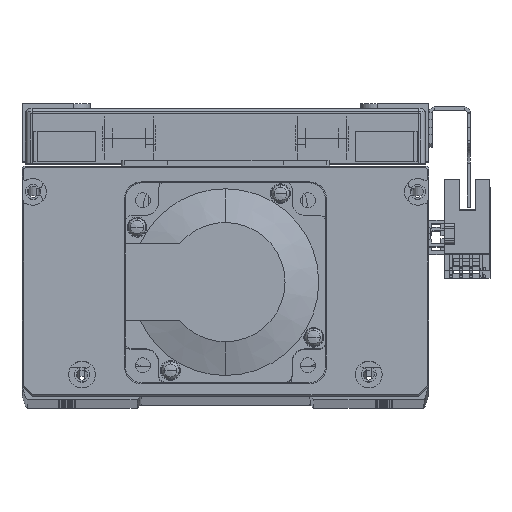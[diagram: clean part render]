
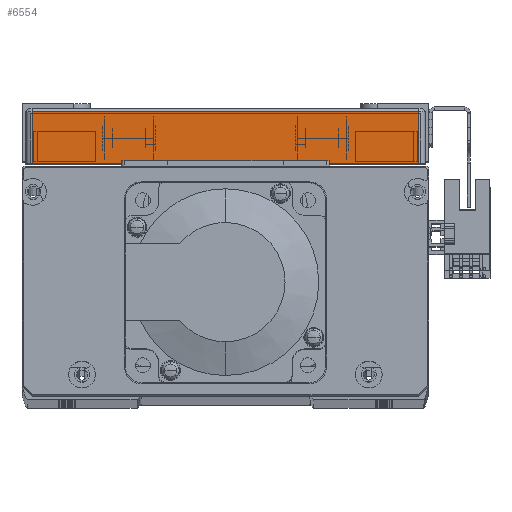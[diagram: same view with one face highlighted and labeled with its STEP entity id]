
A CAD part, top view. The second image highlights one B-rep face of the part: STEP entity #6554.
In plain terms, the highlighted planar face has unit normal (0, 0, 1) as drawn and (1, 0, 0) by its records, which use the part's own axes.
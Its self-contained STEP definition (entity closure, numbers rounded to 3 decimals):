
#5840 = DIRECTION ( 'NONE',  ( 0., -1., 0. ) ) ;
#5864 = CARTESIAN_POINT ( 'NONE',  ( 85.5, 16.5, 58. ) ) ;
#5875 = CARTESIAN_POINT ( 'NONE',  ( 85.5, 15.5, 58. ) ) ;
#5904 = DIRECTION ( 'NONE',  ( 0., 0., 1. ) ) ;
#5963 = DIRECTION ( 'NONE',  ( 0., 0., -1. ) ) ;
#5990 = CARTESIAN_POINT ( 'NONE',  ( 85.5, 0., -60. ) ) ;
#6006 = CARTESIAN_POINT ( 'NONE',  ( 85.5, 16.5, -58. ) ) ;
#6078 = DIRECTION ( 'NONE',  ( 0., 1., 0. ) ) ;
#6554 = ADVANCED_FACE ( 'NONE', ( #32088 ), #49136, .F. ) ;
#8114 = LINE ( 'NONE', #5864, #8149 ) ;
#8149 = VECTOR ( 'NONE', #5840, 1000. ) ;
#8293 = VECTOR ( 'NONE', #5904, 1000. ) ;
#8297 = LINE ( 'NONE', #5875, #8293 ) ;
#8377 = LINE ( 'NONE', #5990, #8394 ) ;
#8394 = VECTOR ( 'NONE', #5963, 1000. ) ;
#8501 = LINE ( 'NONE', #6006, #8503 ) ;
#8503 = VECTOR ( 'NONE', #6078, 1000. ) ;
#11122 = VERTEX_POINT ( 'NONE', #35696 ) ;
#11137 = VERTEX_POINT ( 'NONE', #35703 ) ;
#11179 = VERTEX_POINT ( 'NONE', #35799 ) ;
#11225 = VERTEX_POINT ( 'NONE', #35826 ) ;
#24938 = EDGE_CURVE ( 'NONE', #11225, #11179, #8114, .T. ) ;
#24954 = EDGE_CURVE ( 'NONE', #11122, #11225, #8297, .T. ) ;
#25002 = EDGE_CURVE ( 'NONE', #11179, #11137, #8377, .T. ) ;
#25026 = EDGE_CURVE ( 'NONE', #11137, #11122, #8501, .T. ) ;
#26268 = AXIS2_PLACEMENT_3D ( 'NONE', #49151, #49140, #49138 ) ;
#26998 = ORIENTED_EDGE ( 'NONE', *, *, #25026, .T. ) ;
#27065 = ORIENTED_EDGE ( 'NONE', *, *, #24938, .T. ) ;
#27084 = ORIENTED_EDGE ( 'NONE', *, *, #25002, .T. ) ;
#27105 = ORIENTED_EDGE ( 'NONE', *, *, #24954, .T. ) ;
#30269 = EDGE_LOOP ( 'NONE', ( #26998, #27105, #27065, #27084 ) ) ;
#32088 = FACE_OUTER_BOUND ( 'NONE', #30269, .T. ) ;
#35696 = CARTESIAN_POINT ( 'NONE',  ( 85.5, 15.5, -58. ) ) ;
#35703 = CARTESIAN_POINT ( 'NONE',  ( 85.5, 0., -58. ) ) ;
#35799 = CARTESIAN_POINT ( 'NONE',  ( 85.5, 0., 58. ) ) ;
#35826 = CARTESIAN_POINT ( 'NONE',  ( 85.5, 15.5, 58. ) ) ;
#49136 = PLANE ( 'NONE',  #26268 ) ;
#49138 = DIRECTION ( 'NONE',  ( 0., 0., 1. ) ) ;
#49140 = DIRECTION ( 'NONE',  ( -1., 0., 0. ) ) ;
#49151 = CARTESIAN_POINT ( 'NONE',  ( 85.5, 16.5, -60. ) ) ;
